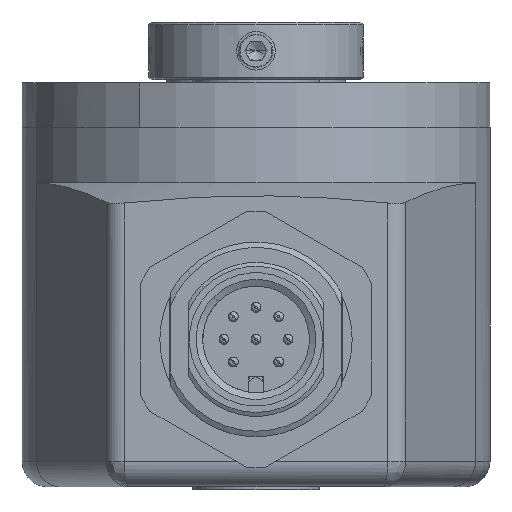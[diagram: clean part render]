
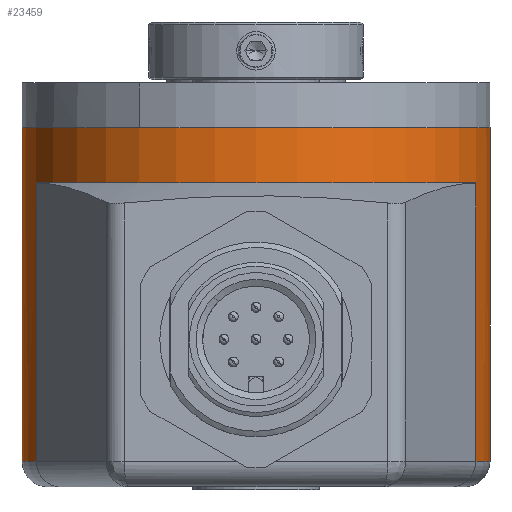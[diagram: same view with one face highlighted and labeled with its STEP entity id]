
A CAD part, front view. The second image highlights one B-rep face of the part: STEP entity #23459.
In plain terms, the highlighted cylindrical face has radius 18.25 mm (diameter 36.5 mm), a partial arc.
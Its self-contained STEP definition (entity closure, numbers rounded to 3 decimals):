
#4108 = ORIENTED_EDGE ( 'NONE', *, *, #23560, .F. ) ;
#4109 = ORIENTED_EDGE ( 'NONE', *, *, #23561, .T. ) ;
#4110 = ORIENTED_EDGE ( 'NONE', *, *, #23562, .T. ) ;
#4111 = ORIENTED_EDGE ( 'NONE', *, *, #23563, .F. ) ;
#4112 = ORIENTED_EDGE ( 'NONE', *, *, #23564, .T. ) ;
#4113 = ORIENTED_EDGE ( 'NONE', *, *, #23565, .T. ) ;
#4114 = ORIENTED_EDGE ( 'NONE', *, *, #23527, .T. ) ;
#4115 = ORIENTED_EDGE ( 'NONE', *, *, #23566, .F. ) ;
#5601 = AXIS2_PLACEMENT_3D ( 'NONE', #11242, #11243, #11244 ) ;
#5694 = AXIS2_PLACEMENT_3D ( 'NONE', #11847, #11848, #11849 ) ;
#5713 = AXIS2_PLACEMENT_3D ( 'NONE', #11990, #11991, #11992 ) ;
#5714 = AXIS2_PLACEMENT_3D ( 'NONE', #11995, #11996, #11997 ) ;
#5715 = AXIS2_PLACEMENT_3D ( 'NONE', #12000, #12001, #12002 ) ;
#9903 = FACE_OUTER_BOUND ( 'NONE', #12926, .T. ) ;
#9909 = CYLINDRICAL_SURFACE ( 'NONE', #5601, 18.25 ) ;
#10497 = VERTEX_POINT ( 'NONE', #19910 ) ;
#10513 = VERTEX_POINT ( 'NONE', #19926 ) ;
#10709 = VERTEX_POINT ( 'NONE', #20122 ) ;
#11242 = CARTESIAN_POINT ( 'NONE',  ( 0., 0., -3.5 ) ) ;
#11243 = DIRECTION ( 'NONE',  ( 0., 0., -1. ) ) ;
#11244 = DIRECTION ( 'NONE',  ( 1., 0., 0. ) ) ;
#11847 = CARTESIAN_POINT ( 'NONE',  ( 0., 0., -29.5 ) ) ;
#11848 = DIRECTION ( 'NONE',  ( 0., 0., 1. ) ) ;
#11849 = DIRECTION ( 'NONE',  ( -1., 0., 0. ) ) ;
#11990 = CARTESIAN_POINT ( 'NONE',  ( 0., 0., -3.5 ) ) ;
#11991 = DIRECTION ( 'NONE',  ( 0., 0., 1. ) ) ;
#11992 = DIRECTION ( 'NONE',  ( -1., 0., 0. ) ) ;
#11993 = CARTESIAN_POINT ( 'NONE',  ( -18.25, 0., -3.5 ) ) ;
#11994 = DIRECTION ( 'NONE',  ( 0., 0., -1. ) ) ;
#11995 = CARTESIAN_POINT ( 'NONE',  ( 0., 0., -29.5 ) ) ;
#11996 = DIRECTION ( 'NONE',  ( 0., 0., 1. ) ) ;
#11997 = DIRECTION ( 'NONE',  ( -1., 0., 0. ) ) ;
#11998 = CARTESIAN_POINT ( 'NONE',  ( -17.149, -6.242, -3.5 ) ) ;
#11999 = DIRECTION ( 'NONE',  ( 0., 0., -1. ) ) ;
#12000 = CARTESIAN_POINT ( 'NONE',  ( 0., 0., -7.806 ) ) ;
#12001 = DIRECTION ( 'NONE',  ( 0., 0., 1. ) ) ;
#12002 = DIRECTION ( 'NONE',  ( -1., 0., 0. ) ) ;
#12003 = CARTESIAN_POINT ( 'NONE',  ( 17.149, -6.242, -3.5 ) ) ;
#12004 = DIRECTION ( 'NONE',  ( 0., 0., -1. ) ) ;
#12005 = CARTESIAN_POINT ( 'NONE',  ( 18.25, 0., -3.5 ) ) ;
#12006 = DIRECTION ( 'NONE',  ( 0., 0., -1. ) ) ;
#12462 = CIRCLE ( 'NONE', #5694, 18.25 ) ;
#12503 = LINE ( 'NONE', #11993, #12505 ) ;
#12504 = CIRCLE ( 'NONE', #5713, 18.25 ) ;
#12505 = VECTOR ( 'NONE', #11994, 1000. ) ;
#12506 = LINE ( 'NONE', #11998, #12508 ) ;
#12507 = CIRCLE ( 'NONE', #5714, 18.25 ) ;
#12508 = VECTOR ( 'NONE', #11999, 1000. ) ;
#12509 = LINE ( 'NONE', #12003, #12511 ) ;
#12510 = CIRCLE ( 'NONE', #5715, 18.25 ) ;
#12511 = VECTOR ( 'NONE', #12004, 1000. ) ;
#12512 = LINE ( 'NONE', #12005, #12513 ) ;
#12513 = VECTOR ( 'NONE', #12006, 1000. ) ;
#12926 = EDGE_LOOP ( 'NONE', ( #4108, #4109, #4110, #4111, #4112, #4113, #4114, #4115 ) ) ;
#15291 = CARTESIAN_POINT ( 'NONE',  ( -17.149, -6.242, -29.5 ) ) ;
#15399 = CARTESIAN_POINT ( 'NONE',  ( -18.25, 0., -3.5 ) ) ;
#15416 = CARTESIAN_POINT ( 'NONE',  ( -18.25, 0., -29.5 ) ) ;
#15453 = CARTESIAN_POINT ( 'NONE',  ( 17.149, -6.242, -29.5 ) ) ;
#15462 = CARTESIAN_POINT ( 'NONE',  ( 18.25, 0., -29.5 ) ) ;
#19910 = CARTESIAN_POINT ( 'NONE',  ( 17.149, -6.242, -7.806 ) ) ;
#19926 = CARTESIAN_POINT ( 'NONE',  ( -17.149, -6.242, -7.806 ) ) ;
#20122 = CARTESIAN_POINT ( 'NONE',  ( 18.25, 0., -3.5 ) ) ;
#23459 = ADVANCED_FACE ( 'NONE', ( #9903 ), #9909, .T. ) ;
#23527 = EDGE_CURVE ( 'NONE', #28090, #28135, #12462, .T. ) ;
#23560 = EDGE_CURVE ( 'NONE', #27861, #10709, #12504, .T. ) ;
#23561 = EDGE_CURVE ( 'NONE', #27861, #27897, #12503, .T. ) ;
#23562 = EDGE_CURVE ( 'NONE', #27897, #27448, #12507, .T. ) ;
#23563 = EDGE_CURVE ( 'NONE', #10513, #27448, #12506, .T. ) ;
#23564 = EDGE_CURVE ( 'NONE', #10513, #10497, #12510, .T. ) ;
#23565 = EDGE_CURVE ( 'NONE', #10497, #28090, #12509, .T. ) ;
#23566 = EDGE_CURVE ( 'NONE', #10709, #28135, #12512, .T. ) ;
#27448 = VERTEX_POINT ( 'NONE', #15291 ) ;
#27861 = VERTEX_POINT ( 'NONE', #15399 ) ;
#27897 = VERTEX_POINT ( 'NONE', #15416 ) ;
#28090 = VERTEX_POINT ( 'NONE', #15453 ) ;
#28135 = VERTEX_POINT ( 'NONE', #15462 ) ;
